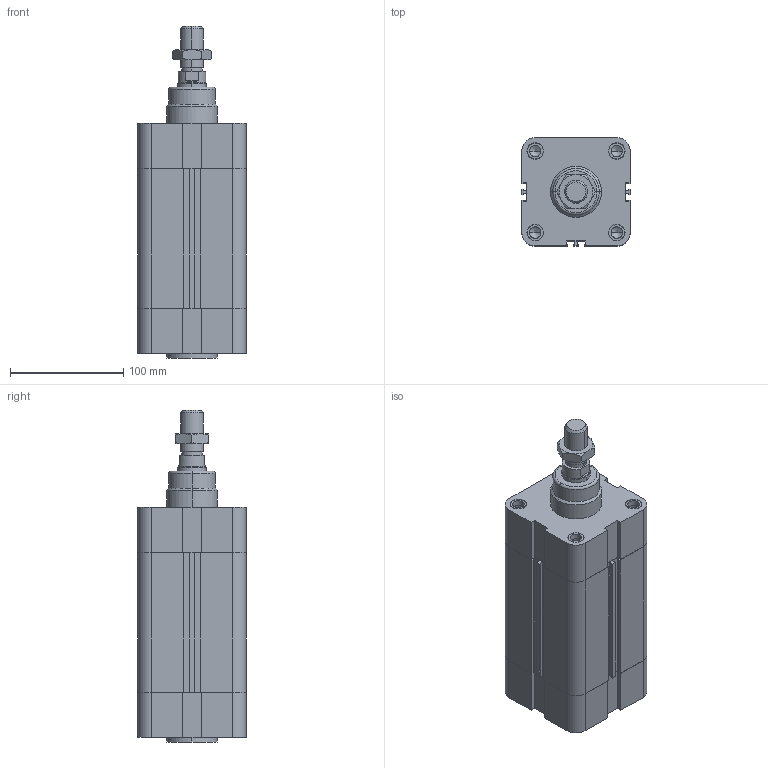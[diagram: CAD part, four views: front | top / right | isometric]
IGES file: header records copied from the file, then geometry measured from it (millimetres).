
Global section: file name: No Iges File Name specified; native system: Autodesk Inventor 2010; preprocessor: AutoDesk Inventor Iges Exporter R2010; author: rivolro1; date: 20090707.103407; units: millimetre
Bounding box: 95.5 x 95.5 x 293 mm (x, y, z)
Volume: 1501008 mm3; surface area: 218509.9 mm2
Topology: 5 solids, 5 shells, 290 faces, 694 edges, 440 vertices
Faces by surface type: plane 120, bspline 74, cylinder 40, revolution 34, cone 20, torus 2
